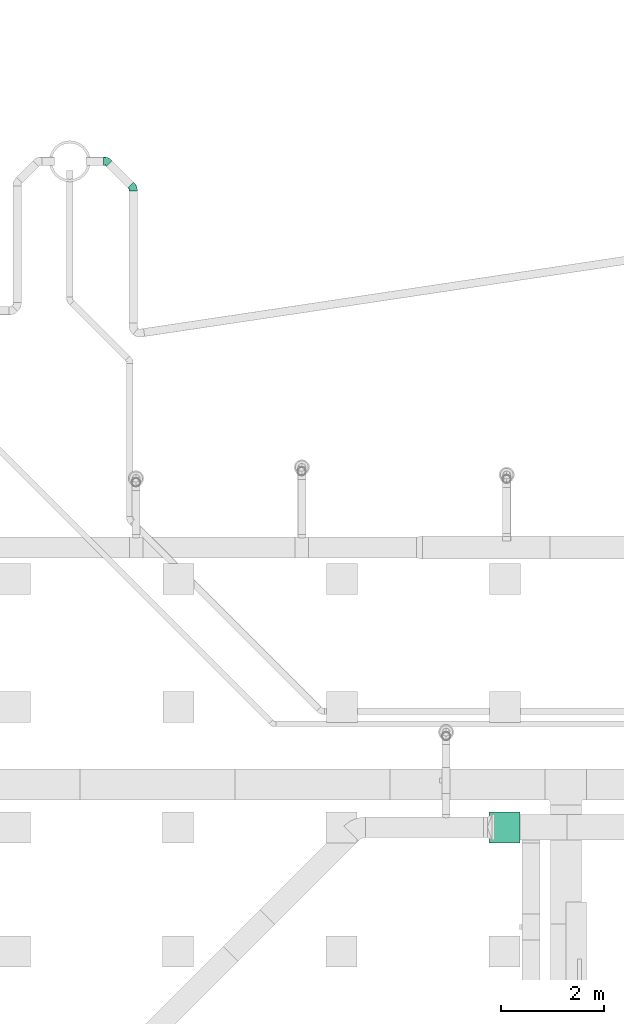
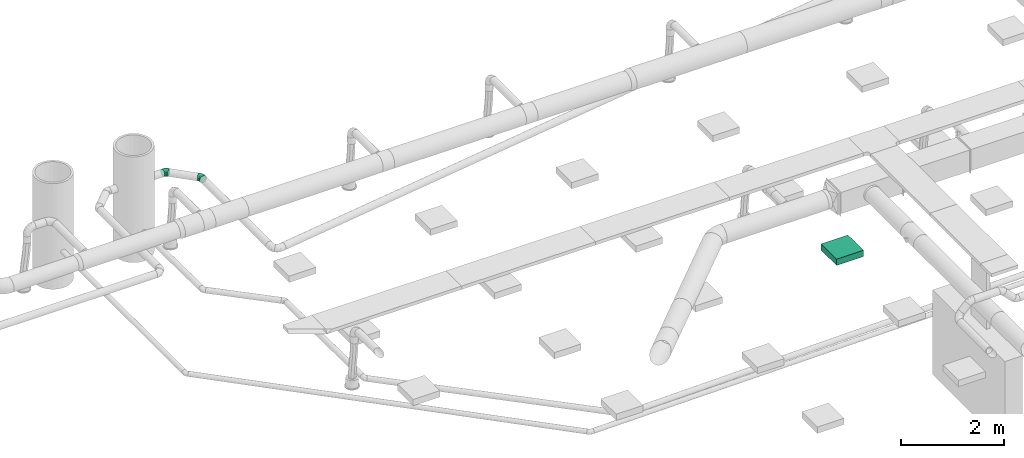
# One storey, part 157 of 374: 2 flow fittings, 1 distribution element.
"""IFC2X3 building model written with IfcOpenShell, lengths in metres."""

from ifc_helpers import new_model, si_unit, direction, frame, frame_2d, origin, place, context, subcontext, project, spatial, rectangle, extrude, open_shell, surface_model, source, transform, mapped, element, save


model = new_model("IFC2X3")

# Units and contexts
model_context = context("Model", 3, precision=1e-05, world=origin(), true_north=direction((-0.4480736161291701, 0.8939966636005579)))
body_context = subcontext(model_context, "Body", "Model", "MODEL_VIEW")
ifc_project = project(units=[si_unit("LENGTHUNIT", "METRE"), si_unit("AREAUNIT", "SQUARE_METRE"), si_unit("VOLUMEUNIT", "CUBIC_METRE"), si_unit("PLANEANGLEUNIT", "RADIAN"), si_unit("THERMODYNAMICTEMPERATUREUNIT", "KELVIN"), si_unit("MASSUNIT", "GRAM", prefix="KILO"), si_unit("TIMEUNIT", "SECOND")], contexts=[model_context])

# Site, building, storey
site_placement = place(None, origin())
site = spatial("IfcSite", under=ifc_project, at=site_placement, Name="Site 1", CompositionType="ELEMENT")
building_placement = place(site_placement, origin())
building = spatial("IfcBuilding", under=site, at=building_placement, Name="Undefined", CompositionType="ELEMENT")
storey_placement = place(building_placement, origin())
storey = spatial("IfcBuildingStorey", under=building, at=storey_placement, Name="Rez de chauss\x8ee", CompositionType="ELEMENT", Elevation=0.0)

# Flow fittings
shared_shape_1 = source(origin(), body_context, "Body", "SurfaceModel", [
    surface_model("IfcFaceBasedSurfaceModel", [(0.0, 0.020884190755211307, 0.0), (0.0, 0.0, 0.0), (0.03280000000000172, -3.552713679e-15, -4.4408921e-16), (0.03280000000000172, 0.0208841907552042, -8.8817842e-16), (0.0, -0.020172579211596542, -0.005405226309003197), (0.03280000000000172, -0.020172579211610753, -0.005405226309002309), (0.0, -0.03825881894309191, -0.015847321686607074), (0.03280000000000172, -0.038258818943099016, -0.015847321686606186), (0.0, -0.05302617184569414, -0.0306146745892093), (0.03280000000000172, -0.05302617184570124, -0.03061467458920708), (0.0, -0.06346826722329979, -0.04870091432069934), (0.03280000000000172, -0.06346826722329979, -0.04870091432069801), (0.0, -0.06887349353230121, -0.06887349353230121), (0.03280000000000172, -0.06887349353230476, -0.06887349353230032), (0.0, -0.06887349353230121, -0.08975768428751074), (0.03280000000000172, -0.06887349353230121, -0.08975768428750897), (0.0, -0.06346826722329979, -0.10993026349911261), (0.03280000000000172, -0.0634682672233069, -0.10993026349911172), (0.0, -0.05302617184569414, -0.12801650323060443), (0.03280000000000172, -0.05302617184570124, -0.12801650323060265), (0.0, -0.038258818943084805, -0.14278385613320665), (0.03280000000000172, -0.038258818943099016, -0.142783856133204), (0.0, -0.020172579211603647, -0.15322595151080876), (0.03280000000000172, -0.0201725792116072, -0.15322595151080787), (0.0, 7.105427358e-15, -0.15863117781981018), (0.03280000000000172, -7.105427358e-15, -0.15863117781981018), (0.0, 0.020884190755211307, -0.15863117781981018), (0.03280000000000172, 0.0208841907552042, -0.15863117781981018), (0.0, 0.04105676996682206, -0.15322595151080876), (0.03280000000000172, 0.04105676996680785, -0.15322595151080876), (0.0, 0.05914300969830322, -0.1427838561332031), (0.03280000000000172, 0.05914300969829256, -0.142783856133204), (0.0, 0.07391036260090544, -0.12801650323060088), (0.03280000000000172, 0.07391036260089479, -0.12801650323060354), (0.0, 0.0843524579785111, -0.10993026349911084), (0.03280000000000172, 0.08435245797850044, -0.1099302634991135), (0.0, 0.08975768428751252, -0.08975768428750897), (0.03280000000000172, 0.08975768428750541, -0.08975768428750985), (0.0, 0.08975768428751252, -0.06887349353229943), (0.03280000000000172, 0.08975768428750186, -0.0688734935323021), (0.0, 0.0843524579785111, -0.048700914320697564), (0.03280000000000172, 0.08435245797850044, -0.048700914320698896), (0.0, 0.07391036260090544, -0.030614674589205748), (0.03280000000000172, 0.07391036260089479, -0.03061467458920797), (0.0, 0.05914300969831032, -0.015847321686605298), (0.03280000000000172, 0.05914300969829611, -0.015847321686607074), (0.0, 0.04105676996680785, -0.005405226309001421), (0.03280000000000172, 0.04105676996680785, -0.005405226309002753), (0.07350552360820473, -0.06356035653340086, -0.09045717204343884), (0.07421104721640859, -0.06346826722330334, -0.0695851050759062), (0.11143703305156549, -0.04798302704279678, -0.09250796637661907), (0.11280000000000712, -0.04762094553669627, -0.07167144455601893), (0.14400955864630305, -0.023203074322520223, -0.09577030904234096), (0.14593708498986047, -0.02241149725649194, -0.07499033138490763), (0.07143703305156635, -0.058425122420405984, -0.11059420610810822), (0.1074410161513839, -0.043639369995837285, -0.1125407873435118), (0.13835833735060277, -0.020118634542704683, -0.11563735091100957), (0.06814653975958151, -0.04841252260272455, -0.12862390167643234), (0.10108427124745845, -0.034885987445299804, -0.13040470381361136), (0.12936854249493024, -0.013368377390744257, -0.13323755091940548), (0.06385828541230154, -0.03420489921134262, -0.14331756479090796), (0.09279999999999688, -0.02231940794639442, -0.14488231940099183), (0.11765281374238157, -0.0034123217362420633, -0.14737148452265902), (0.05886450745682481, -0.01677047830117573, -0.15367384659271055), (0.08315276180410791, -0.0067960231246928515, -0.15498700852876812), (0.1040095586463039, 0.009071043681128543, -0.15707594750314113), (0.0535055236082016, 0.002702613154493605, -0.15898698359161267), (0.07280000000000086, 0.010626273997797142, -0.16003015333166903), (0.08936854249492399, 0.023230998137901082, -0.16168959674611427), (0.04814653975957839, 0.02288731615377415, -0.15889489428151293), (0.06244723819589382, 0.028760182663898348, -0.15966807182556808), (0.07472752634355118, 0.03810256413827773, -0.16089801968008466), (0.043152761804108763, 0.042408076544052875, -0.1534038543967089), (0.05280000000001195, 0.04636990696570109, -0.15392543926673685), (0.061084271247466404, 0.05267226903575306, -0.15475516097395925), (0.038864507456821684, 0.05993458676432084, -0.1428880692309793), (0.04451572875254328, 0.062255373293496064, -0.143193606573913), (0.04936854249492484, 0.06594721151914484, -0.14367964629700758), (0.035574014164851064, 0.07427244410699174, -0.12806417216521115), (0.03815898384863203, 0.07533401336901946, -0.12820393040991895), (0.04037874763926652, 0.07702272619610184, -0.1284262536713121), (0.03350552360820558, 0.08444454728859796, -0.10994238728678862), (0.03416296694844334, 0.08471453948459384, -0.10997793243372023), (0.03472752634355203, 0.08514403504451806, -0.11003447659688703), (0.03350552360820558, 0.08984977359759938, -0.06888561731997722), (0.03416296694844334, 0.09011976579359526, -0.06892116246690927), (0.03472752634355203, 0.09054926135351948, -0.06897770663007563), (0.035574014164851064, 0.0847145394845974, -0.04874858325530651), (0.03815898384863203, 0.08577610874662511, -0.04888834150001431), (0.04037874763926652, 0.0874648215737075, -0.04911066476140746), (0.038864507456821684, 0.07470193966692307, -0.030718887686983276), (0.04451572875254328, 0.07702272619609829, -0.031024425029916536), (0.04936854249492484, 0.08071456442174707, -0.03151046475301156), (0.043152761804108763, 0.06049431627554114, -0.016025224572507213), (0.05280000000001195, 0.06445614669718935, -0.01654680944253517), (0.061084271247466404, 0.07075850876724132, -0.017376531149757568), (0.04814653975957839, 0.0430598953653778, -0.0056689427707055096), (0.06244723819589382, 0.048932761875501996, -0.006442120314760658), (0.07472752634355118, 0.058275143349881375, -0.007672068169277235), (0.0535055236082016, 0.023586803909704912, -0.0003558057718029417), (0.07280000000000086, 0.03151046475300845, -0.0013989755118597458), (0.08936854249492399, 0.04411518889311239, -0.0030584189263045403), (0.05886450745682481, 0.0034021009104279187, -0.0004478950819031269), (0.08315276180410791, 0.013376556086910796, -0.0017610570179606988), (0.1040095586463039, 0.02924362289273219, -0.00384999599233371), (0.06385828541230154, -0.016118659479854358, -0.0059389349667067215), (0.09279999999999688, -0.004233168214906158, -0.007503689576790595), (0.11765281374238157, 0.0146739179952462, -0.009992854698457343), (0.06814653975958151, -0.033645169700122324, -0.016454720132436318), (0.10108427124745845, -0.020118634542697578, -0.01823552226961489), (0.12936854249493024, 0.0013989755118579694, -0.021068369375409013), (0.07143703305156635, -0.04798302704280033, -0.03127861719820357), (0.1074410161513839, -0.03319727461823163, -0.03322519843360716), (0.13835833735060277, -0.00967653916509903, -0.03632176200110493), (0.07350552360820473, -0.05815513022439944, -0.04940040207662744), (0.11143703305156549, -0.04257780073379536, -0.051451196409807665), (0.14400955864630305, -0.017797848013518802, -0.05471353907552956), (0.16720266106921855, -0.00020839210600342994, -0.09879761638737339), (0.16913018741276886, 0.0005831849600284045, -0.07801763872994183), (0.16155143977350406, 0.0028760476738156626, -0.11866465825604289), (0.15256164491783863, 0.009626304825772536, -0.1362648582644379), (0.14084591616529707, 0.019582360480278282, -0.15039879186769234), (0.1272026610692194, 0.03206572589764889, -0.16010325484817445), (0.11256164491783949, 0.046225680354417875, -0.16471690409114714), (0.09792062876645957, 0.06109724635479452, -0.16392532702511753), (0.0842773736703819, 0.07566695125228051, -0.15778246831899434), (0.07256164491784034, 0.08894189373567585, -0.14670695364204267), (0.06357185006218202, 0.10001740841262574, -0.1314535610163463), (0.057920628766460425, 0.10813871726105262, -0.11306178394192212), (0.05599310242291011, 0.1127523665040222, -0.09278499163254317), (0.057920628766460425, 0.11354394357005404, -0.07200501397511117), (0.06357185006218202, 0.1104595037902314, -0.052137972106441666), (0.07256164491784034, 0.10370924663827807, -0.03453777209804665), (0.0842773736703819, 0.09375319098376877, -0.02040383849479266), (0.09792062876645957, 0.08126982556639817, -0.010699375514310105), (0.11256164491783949, 0.06710987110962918, -0.006085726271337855), (0.1272026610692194, 0.052238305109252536, -0.0068773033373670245), (0.14084591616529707, 0.037668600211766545, -0.013020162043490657), (0.15256164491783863, 0.024393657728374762, -0.024095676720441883), (0.16155143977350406, 0.013318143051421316, -0.039349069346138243), (0.16720266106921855, 0.005196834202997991, -0.05774084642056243)], [open_shell([[[0, 1, 2, 3]], [[1, 4, 5, 2]], [[4, 6, 7, 5]], [[6, 8, 9, 7]], [[8, 10, 11, 9]], [[10, 12, 13, 11]], [[12, 14, 15, 13]], [[14, 16, 17, 15]], [[16, 18, 19, 17]], [[18, 20, 21, 19]], [[20, 22, 23, 21]], [[22, 24, 25, 23]], [[24, 26, 27, 25]], [[26, 28, 29, 27]], [[28, 30, 31, 29]], [[30, 32, 33, 31]], [[32, 34, 35, 33]], [[34, 36, 37, 35]], [[36, 38, 39, 37]], [[38, 40, 41, 39]], [[40, 42, 43, 41]], [[42, 44, 45, 43]], [[44, 46, 47, 45]], [[46, 0, 3, 47]], [[13, 15, 48, 49]], [[49, 48, 50, 51]], [[51, 50, 52, 53]], [[15, 17, 54, 48]], [[48, 54, 55, 50]], [[50, 55, 56, 52]], [[17, 19, 57, 54]], [[54, 57, 58, 55]], [[55, 58, 59, 56]], [[19, 21, 60, 57]], [[57, 60, 61, 58]], [[58, 61, 62, 59]], [[21, 23, 63, 60]], [[60, 63, 64, 61]], [[61, 64, 65, 62]], [[23, 25, 66, 63]], [[63, 66, 67, 64]], [[64, 67, 68, 65]], [[25, 27, 69, 66]], [[66, 69, 70, 67]], [[67, 70, 71, 68]], [[27, 29, 72, 69]], [[69, 72, 73, 70]], [[70, 73, 74, 71]], [[29, 31, 75, 72]], [[72, 75, 76, 73]], [[73, 76, 77, 74]], [[31, 33, 78, 75]], [[75, 78, 79, 76]], [[76, 79, 80, 77]], [[33, 35, 81, 78]], [[78, 81, 82, 79]], [[79, 82, 83, 80]], [[35, 37, 81]], [[81, 37, 82]], [[82, 37, 83]], [[37, 39, 84]], [[37, 84, 85]], [[37, 85, 86]], [[39, 41, 87, 84]], [[84, 87, 88, 85]], [[85, 88, 89, 86]], [[41, 43, 90, 87]], [[87, 90, 91, 88]], [[88, 91, 92, 89]], [[43, 45, 93, 90]], [[90, 93, 94, 91]], [[91, 94, 95, 92]], [[45, 47, 96, 93]], [[93, 96, 97, 94]], [[94, 97, 98, 95]], [[47, 3, 99, 96]], [[96, 99, 100, 97]], [[97, 100, 101, 98]], [[3, 2, 102, 99]], [[99, 102, 103, 100]], [[100, 103, 104, 101]], [[2, 5, 105, 102]], [[102, 105, 106, 103]], [[103, 106, 107, 104]], [[5, 7, 108, 105]], [[105, 108, 109, 106]], [[106, 109, 110, 107]], [[7, 9, 111, 108]], [[108, 111, 112, 109]], [[109, 112, 113, 110]], [[9, 11, 114, 111]], [[111, 114, 115, 112]], [[112, 115, 116, 113]], [[11, 13, 49, 114]], [[114, 49, 51, 115]], [[115, 51, 53, 116]], [[53, 52, 117, 118]], [[52, 56, 119, 117]], [[56, 59, 120, 119]], [[59, 62, 121, 120]], [[62, 65, 122, 121]], [[65, 68, 123, 122]], [[68, 71, 124, 123]], [[71, 74, 125, 124]], [[74, 77, 126, 125]], [[77, 80, 127, 126]], [[80, 83, 128, 127]], [[83, 37, 129, 128]], [[37, 86, 130, 129]], [[86, 89, 131, 130]], [[89, 92, 132, 131]], [[92, 95, 133, 132]], [[95, 98, 134, 133]], [[98, 101, 135, 134]], [[101, 104, 136, 135]], [[104, 107, 137, 136]], [[107, 110, 138, 137]], [[110, 113, 139, 138]], [[113, 116, 140, 139]], [[116, 53, 118, 140]]])]),
])
flow_fitting_1_placement = place(storey_placement, origin())
element("IfcFlowFitting", 1, at=flow_fitting_1_placement, inside=storey, Name="PE-HD coude 45°", ObjectType="PE-HD coude 45°", context=body_context, shape_type="MappedRepresentation", body=[
    mapped(shared_shape_1, transform((38.257582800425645, 27.425160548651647, -0.7163137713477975), x_axis=(0.0, 1.0, 0.0), y_axis=(-0.9914448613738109, 0.0, 0.1305261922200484), z_axis=(0.1305261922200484, 0.0, 0.9914448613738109))),
])
shared_shape_2 = source(origin(), body_context, "Body", "SurfaceModel", [
    surface_model("IfcFaceBasedSurfaceModel", [(0.0, 0.020884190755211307, 0.0), (0.0, 0.0, 0.0), (0.03280000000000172, -3.552713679e-15, -4.4408921e-16), (0.03280000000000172, 0.0208841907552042, -8.8817842e-16), (0.0, -0.020172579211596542, -0.005405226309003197), (0.03280000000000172, -0.020172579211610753, -0.005405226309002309), (0.0, -0.03825881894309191, -0.015847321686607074), (0.03280000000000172, -0.038258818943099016, -0.015847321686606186), (0.0, -0.05302617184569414, -0.0306146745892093), (0.03280000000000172, -0.05302617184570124, -0.03061467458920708), (0.0, -0.06346826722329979, -0.04870091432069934), (0.03280000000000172, -0.06346826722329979, -0.04870091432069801), (0.0, -0.06887349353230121, -0.06887349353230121), (0.03280000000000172, -0.06887349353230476, -0.06887349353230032), (0.0, -0.06887349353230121, -0.08975768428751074), (0.03280000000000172, -0.06887349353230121, -0.08975768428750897), (0.0, -0.06346826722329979, -0.10993026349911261), (0.03280000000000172, -0.0634682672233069, -0.10993026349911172), (0.0, -0.05302617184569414, -0.12801650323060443), (0.03280000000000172, -0.05302617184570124, -0.12801650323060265), (0.0, -0.038258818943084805, -0.14278385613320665), (0.03280000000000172, -0.038258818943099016, -0.142783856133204), (0.0, -0.020172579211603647, -0.15322595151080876), (0.03280000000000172, -0.0201725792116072, -0.15322595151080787), (0.0, 7.105427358e-15, -0.15863117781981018), (0.03280000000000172, -7.105427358e-15, -0.15863117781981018), (0.0, 0.020884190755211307, -0.15863117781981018), (0.03280000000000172, 0.0208841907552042, -0.15863117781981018), (0.0, 0.04105676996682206, -0.15322595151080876), (0.03280000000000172, 0.04105676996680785, -0.15322595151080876), (0.0, 0.05914300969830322, -0.1427838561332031), (0.03280000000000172, 0.05914300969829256, -0.142783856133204), (0.0, 0.07391036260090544, -0.12801650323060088), (0.03280000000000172, 0.07391036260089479, -0.12801650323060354), (0.0, 0.0843524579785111, -0.10993026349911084), (0.03280000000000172, 0.08435245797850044, -0.1099302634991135), (0.0, 0.08975768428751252, -0.08975768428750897), (0.03280000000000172, 0.08975768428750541, -0.08975768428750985), (0.0, 0.08975768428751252, -0.06887349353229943), (0.03280000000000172, 0.08975768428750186, -0.0688734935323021), (0.0, 0.0843524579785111, -0.048700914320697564), (0.03280000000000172, 0.08435245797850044, -0.048700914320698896), (0.0, 0.07391036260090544, -0.030614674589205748), (0.03280000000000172, 0.07391036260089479, -0.03061467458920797), (0.0, 0.05914300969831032, -0.015847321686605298), (0.03280000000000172, 0.05914300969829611, -0.015847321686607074), (0.0, 0.04105676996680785, -0.005405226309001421), (0.03280000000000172, 0.04105676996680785, -0.005405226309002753), (0.07350552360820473, -0.06356035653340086, -0.09045717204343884), (0.07421104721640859, -0.06346826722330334, -0.0695851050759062), (0.11143703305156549, -0.04798302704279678, -0.09250796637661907), (0.11280000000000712, -0.04762094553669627, -0.07167144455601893), (0.14400955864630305, -0.023203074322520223, -0.09577030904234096), (0.14593708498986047, -0.02241149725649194, -0.07499033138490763), (0.07143703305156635, -0.058425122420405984, -0.11059420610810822), (0.1074410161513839, -0.043639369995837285, -0.1125407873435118), (0.13835833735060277, -0.020118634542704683, -0.11563735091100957), (0.06814653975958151, -0.04841252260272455, -0.12862390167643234), (0.10108427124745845, -0.034885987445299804, -0.13040470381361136), (0.12936854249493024, -0.013368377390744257, -0.13323755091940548), (0.06385828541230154, -0.03420489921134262, -0.14331756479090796), (0.09279999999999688, -0.02231940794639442, -0.14488231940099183), (0.11765281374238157, -0.0034123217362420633, -0.14737148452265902), (0.05886450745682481, -0.01677047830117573, -0.15367384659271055), (0.08315276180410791, -0.0067960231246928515, -0.15498700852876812), (0.1040095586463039, 0.009071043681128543, -0.15707594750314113), (0.0535055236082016, 0.002702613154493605, -0.15898698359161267), (0.07280000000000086, 0.010626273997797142, -0.16003015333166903), (0.08936854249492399, 0.023230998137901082, -0.16168959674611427), (0.04814653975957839, 0.02288731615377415, -0.15889489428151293), (0.06244723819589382, 0.028760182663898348, -0.15966807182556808), (0.07472752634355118, 0.03810256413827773, -0.16089801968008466), (0.043152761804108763, 0.042408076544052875, -0.1534038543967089), (0.05280000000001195, 0.04636990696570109, -0.15392543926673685), (0.061084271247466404, 0.05267226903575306, -0.15475516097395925), (0.038864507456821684, 0.05993458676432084, -0.1428880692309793), (0.04451572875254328, 0.062255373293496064, -0.143193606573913), (0.04936854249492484, 0.06594721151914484, -0.14367964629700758), (0.035574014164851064, 0.07427244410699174, -0.12806417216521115), (0.03815898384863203, 0.07533401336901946, -0.12820393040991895), (0.04037874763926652, 0.07702272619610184, -0.1284262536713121), (0.03350552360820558, 0.08444454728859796, -0.10994238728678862), (0.03416296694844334, 0.08471453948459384, -0.10997793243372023), (0.03472752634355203, 0.08514403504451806, -0.11003447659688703), (0.03350552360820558, 0.08984977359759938, -0.06888561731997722), (0.03416296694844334, 0.09011976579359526, -0.06892116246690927), (0.03472752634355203, 0.09054926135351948, -0.06897770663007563), (0.035574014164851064, 0.0847145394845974, -0.04874858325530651), (0.03815898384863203, 0.08577610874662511, -0.04888834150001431), (0.04037874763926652, 0.0874648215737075, -0.04911066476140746), (0.038864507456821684, 0.07470193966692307, -0.030718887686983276), (0.04451572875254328, 0.07702272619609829, -0.031024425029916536), (0.04936854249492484, 0.08071456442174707, -0.03151046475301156), (0.043152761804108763, 0.06049431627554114, -0.016025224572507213), (0.05280000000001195, 0.06445614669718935, -0.01654680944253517), (0.061084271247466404, 0.07075850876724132, -0.017376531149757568), (0.04814653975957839, 0.0430598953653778, -0.0056689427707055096), (0.06244723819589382, 0.048932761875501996, -0.006442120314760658), (0.07472752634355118, 0.058275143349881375, -0.007672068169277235), (0.0535055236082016, 0.023586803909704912, -0.0003558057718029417), (0.07280000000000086, 0.03151046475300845, -0.0013989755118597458), (0.08936854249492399, 0.04411518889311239, -0.0030584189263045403), (0.05886450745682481, 0.0034021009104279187, -0.0004478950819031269), (0.08315276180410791, 0.013376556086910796, -0.0017610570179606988), (0.1040095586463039, 0.02924362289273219, -0.00384999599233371), (0.06385828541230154, -0.016118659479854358, -0.0059389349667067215), (0.09279999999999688, -0.004233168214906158, -0.007503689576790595), (0.11765281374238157, 0.0146739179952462, -0.009992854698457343), (0.06814653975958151, -0.033645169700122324, -0.016454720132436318), (0.10108427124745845, -0.020118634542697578, -0.01823552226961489), (0.12936854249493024, 0.0013989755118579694, -0.021068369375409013), (0.07143703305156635, -0.04798302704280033, -0.03127861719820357), (0.1074410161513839, -0.03319727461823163, -0.03322519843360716), (0.13835833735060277, -0.00967653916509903, -0.03632176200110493), (0.07350552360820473, -0.05815513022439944, -0.04940040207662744), (0.11143703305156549, -0.04257780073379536, -0.051451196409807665), (0.14400955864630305, -0.017797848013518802, -0.05471353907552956), (0.167202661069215, -0.00020839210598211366, -0.09879761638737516), (0.16913018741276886, 0.0005831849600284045, -0.07801763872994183), (0.16155143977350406, 0.0028760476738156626, -0.11866465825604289), (0.15256164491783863, 0.009626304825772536, -0.1362648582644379), (0.14084591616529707, 0.019582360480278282, -0.15039879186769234), (0.1272026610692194, 0.03206572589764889, -0.16010325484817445), (0.11256164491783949, 0.046225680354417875, -0.16471690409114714), (0.09792062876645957, 0.06109724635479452, -0.16392532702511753), (0.0842773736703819, 0.07566695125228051, -0.15778246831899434), (0.07256164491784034, 0.08894189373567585, -0.14670695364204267), (0.06357185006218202, 0.10001740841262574, -0.1314535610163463), (0.057920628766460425, 0.10813871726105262, -0.11306178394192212), (0.05599310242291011, 0.1127523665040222, -0.09278499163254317), (0.057920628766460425, 0.11354394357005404, -0.07200501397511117), (0.06357185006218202, 0.1104595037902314, -0.052137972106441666), (0.07256164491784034, 0.10370924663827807, -0.03453777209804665), (0.0842773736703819, 0.09375319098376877, -0.02040383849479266), (0.09792062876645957, 0.08126982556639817, -0.010699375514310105), (0.11256164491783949, 0.06710987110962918, -0.006085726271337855), (0.1272026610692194, 0.052238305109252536, -0.0068773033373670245), (0.14084591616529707, 0.037668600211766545, -0.013020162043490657), (0.15256164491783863, 0.024393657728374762, -0.024095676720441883), (0.16155143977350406, 0.013318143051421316, -0.039349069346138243), (0.16720266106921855, 0.005196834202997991, -0.05774084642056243)], [open_shell([[[0, 1, 2, 3]], [[1, 4, 5, 2]], [[4, 6, 7, 5]], [[6, 8, 9, 7]], [[8, 10, 11, 9]], [[10, 12, 13, 11]], [[12, 14, 15, 13]], [[14, 16, 17, 15]], [[16, 18, 19, 17]], [[18, 20, 21, 19]], [[20, 22, 23, 21]], [[22, 24, 25, 23]], [[24, 26, 27, 25]], [[26, 28, 29, 27]], [[28, 30, 31, 29]], [[30, 32, 33, 31]], [[32, 34, 35, 33]], [[34, 36, 37, 35]], [[36, 38, 39, 37]], [[38, 40, 41, 39]], [[40, 42, 43, 41]], [[42, 44, 45, 43]], [[44, 46, 47, 45]], [[46, 0, 3, 47]], [[13, 15, 48, 49]], [[49, 48, 50, 51]], [[51, 50, 52, 53]], [[15, 17, 54, 48]], [[48, 54, 55, 50]], [[50, 55, 56, 52]], [[17, 19, 57, 54]], [[54, 57, 58, 55]], [[55, 58, 59, 56]], [[19, 21, 60, 57]], [[57, 60, 61, 58]], [[58, 61, 62, 59]], [[21, 23, 63, 60]], [[60, 63, 64, 61]], [[61, 64, 65, 62]], [[23, 25, 66, 63]], [[63, 66, 67, 64]], [[64, 67, 68, 65]], [[25, 27, 69, 66]], [[66, 69, 70, 67]], [[67, 70, 71, 68]], [[27, 29, 72, 69]], [[69, 72, 73, 70]], [[70, 73, 74, 71]], [[29, 31, 75, 72]], [[72, 75, 76, 73]], [[73, 76, 77, 74]], [[31, 33, 78, 75]], [[75, 78, 79, 76]], [[76, 79, 80, 77]], [[33, 35, 81, 78]], [[78, 81, 82, 79]], [[79, 82, 83, 80]], [[35, 37, 81]], [[81, 37, 82]], [[82, 37, 83]], [[37, 39, 84]], [[37, 84, 85]], [[37, 85, 86]], [[39, 41, 87, 84]], [[84, 87, 88, 85]], [[85, 88, 89, 86]], [[41, 43, 90, 87]], [[87, 90, 91, 88]], [[88, 91, 92, 89]], [[43, 45, 93, 90]], [[90, 93, 94, 91]], [[91, 94, 95, 92]], [[45, 47, 96, 93]], [[93, 96, 97, 94]], [[94, 97, 98, 95]], [[47, 3, 99, 96]], [[96, 99, 100, 97]], [[97, 100, 101, 98]], [[3, 2, 102, 99]], [[99, 102, 103, 100]], [[100, 103, 104, 101]], [[2, 5, 105, 102]], [[102, 105, 106, 103]], [[103, 106, 107, 104]], [[5, 7, 108, 105]], [[105, 108, 109, 106]], [[106, 109, 110, 107]], [[7, 9, 111, 108]], [[108, 111, 112, 109]], [[109, 112, 113, 110]], [[9, 11, 114, 111]], [[111, 114, 115, 112]], [[112, 115, 116, 113]], [[11, 13, 49, 114]], [[114, 49, 51, 115]], [[115, 51, 53, 116]], [[53, 52, 117, 118]], [[52, 56, 119, 117]], [[56, 59, 120, 119]], [[59, 62, 121, 120]], [[62, 65, 122, 121]], [[65, 68, 123, 122]], [[68, 71, 124, 123]], [[71, 74, 125, 124]], [[74, 77, 126, 125]], [[77, 80, 127, 126]], [[80, 83, 128, 127]], [[83, 37, 129, 128]], [[37, 86, 130, 129]], [[86, 89, 131, 130]], [[89, 92, 132, 131]], [[92, 95, 133, 132]], [[95, 98, 134, 133]], [[98, 101, 135, 134]], [[101, 104, 136, 135]], [[104, 107, 137, 136]], [[107, 110, 138, 137]], [[110, 113, 139, 138]], [[113, 116, 140, 139]], [[116, 53, 118, 140]]])]),
])
flow_fitting_2_placement = place(storey_placement, origin())
element("IfcFlowFitting", 2, at=flow_fitting_2_placement, inside=storey, Name="PE-HD coude 45°", ObjectType="PE-HD coude 45°", context=body_context, shape_type="MappedRepresentation", body=[
    mapped(shared_shape_2, transform((37.78780161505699, 27.9694553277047, -0.7163137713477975), x_axis=(-0.7071067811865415, 0.7071067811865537, 0.0), y_axis=(-0.7010573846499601, -0.7010573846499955, 0.1305261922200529), z_axis=(0.0922959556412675, 0.0922959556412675, 0.9914448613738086))),
])

# Distribution element
distribution_element_placement = place(storey_placement, origin())
element("IfcDistributionElement", 3, at=distribution_element_placement, inside=storey, Name="Decken-Rechteckleuchte mit Rahmen AP", ObjectType="Decken-Rechteckleuchte mit Rahmen AP", context=body_context, shape_type="SweptSolid", body=[
    extrude(rectangle(XDim=0.6000000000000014, YDim=0.6000000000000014, at=frame_2d((3.552713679e-15, 0.0), x_axis=(0.0, 1.0))), frame((45.42533699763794, 15.1125, 2.5500000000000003), z_axis=(0.0, 0.0, -1.0), x_axis=(1.0, 0.0, 0.0)), (0.0, 0.0, 1.0), 0.15),
])

save(model, "model.ifc")
